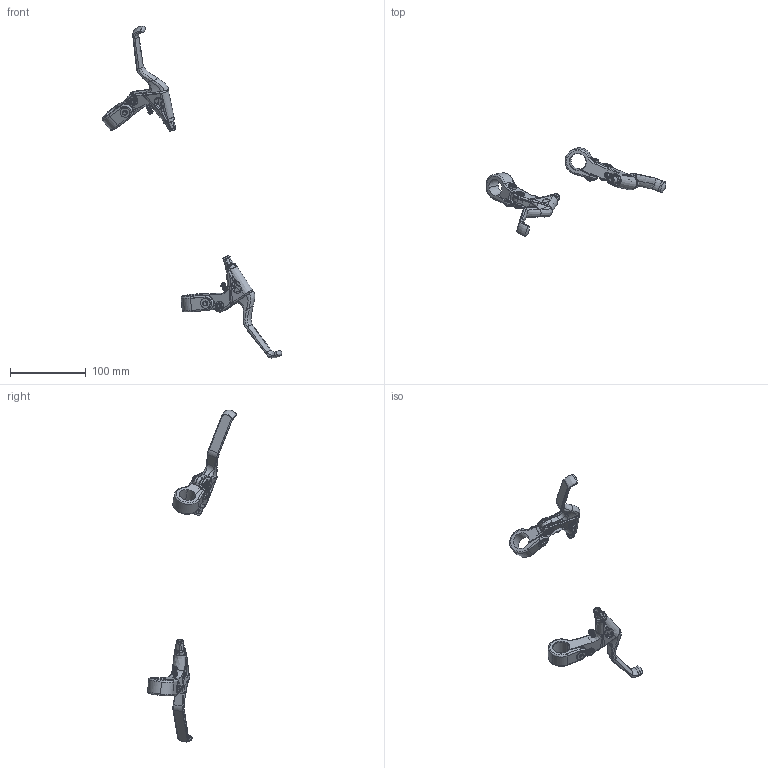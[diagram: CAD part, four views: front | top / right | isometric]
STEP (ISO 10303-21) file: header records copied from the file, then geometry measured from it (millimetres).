
FILE_DESCRIPTION (( 'STEP AP203' ), '1' );
FILE_NAME ('BRAKE_LEVERS.STEP', '2011-10-29T16:24:10', ( ' ' ), ( '' ), 'SwSTEP 2.0', 'SolidWorks 2011', '' );
FILE_SCHEMA (( 'CONFIG_CONTROL_DESIGN' ));
Length unit declared in the file: millimetre
Products named in the file (29): 001176-5_L; 001176-12_L; 001176-9_L; 001176-4_L; 001176-12_R; 001176-3_L; 001176-13_R; 001176-3_R; 001176-8_R; 001176-7_R; 001176-2_R; BRAKE_LEVERS; 001176-13_L; 001176_L; 001176-11_L; 001176-10_L; 001176-7_L; 001176-8_L; 001176-6_L; 001176_R; 001176-1_L; 001176-2_L; 001176-11_R; 001176-9_R; 001176-10_R; 001176-5_R; 001176-4_R; 001176-6_R; 001176-1_R
Assembly tree (28 placements, depth 3):
  BRAKE_LEVERS
    001176_R
      001176-7_R
      001176-10_R
      001176-3_R
      001176-13_R
      001176-9_R
      001176-5_R
      001176-4_R
      001176-2_R
      001176-1_R
      001176-12_R
      001176-11_R
      001176-6_R
      001176-8_R
    001176_L
      001176-12_L
      001176-6_L
      001176-3_L
      001176-8_L
      001176-4_L
      001176-5_L
      001176-1_L
      001176-10_L
      001176-7_L
      001176-2_L
      001176-13_L
      001176-11_L
      001176-9_L
Bounding box: 237.34 x 117.33 x 438.23 mm (x, y, z)
Volume: 90833.2 mm3; surface area: 53981.3 mm2
Topology: 26 solids, 26 shells, 1188 faces, 3039 edges, 1892 vertices
Faces by surface type: cylinder 393, bspline 331, plane 304, cone 144, torus 16
Entity records: 60192 total; most frequent: CARTESIAN_POINT 30955, ORIENTED_EDGE 6006, DIRECTION 4812, EDGE_CURVE 3003, AXIS2_PLACEMENT_3D 1930, VERTEX_POINT 1888, EDGE_LOOP 1281, ADVANCED_FACE 1188
